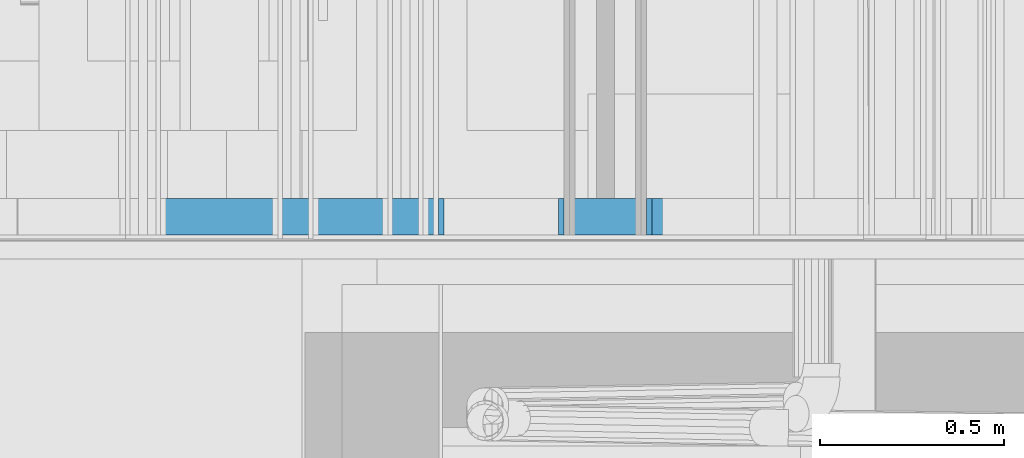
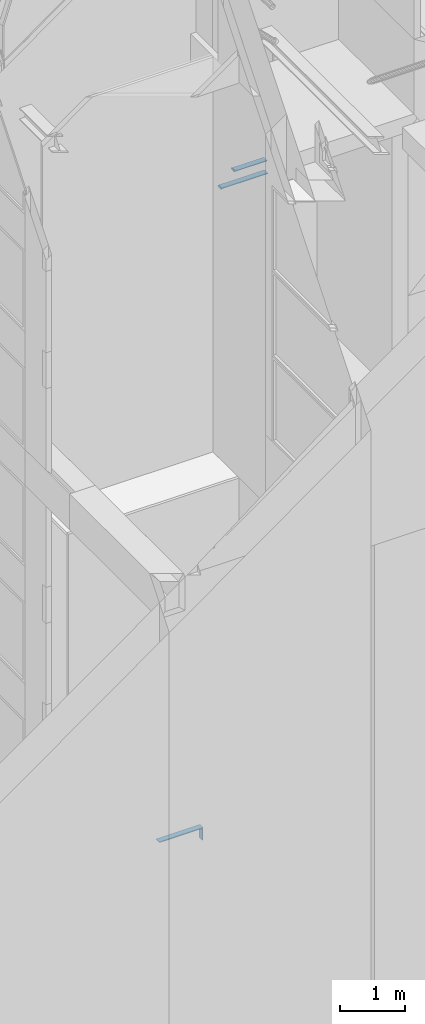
# One storey, part 176 of 583: 6 building element parts, 4 elements without a shape of their own.
"""IFC2X3 building model written with IfcOpenShell, lengths in metres."""

from ifc_helpers import new_model, entity, si_unit, converted_unit, derived_unit, money_unit, direction, frame, frame_2d, origin_with_axes, place, context, subcontext, project, spatial, polyline, rectangle, outline, extrude, material, type_object, element, aggregate, save


model = new_model("IFC2X3")

# Units and contexts
model_context = context("Model", 3, precision=1e-05, world=origin_with_axes(), true_north=direction((0.0, 1.0)))
body_context = subcontext(model_context, "Body", "Model", "MODEL_VIEW", scale=1.0)
ifc_project = project(units=[si_unit("LENGTHUNIT", "METRE"), si_unit("AREAUNIT", "SQUARE_METRE"), si_unit("VOLUMEUNIT", "CUBIC_METRE"), si_unit("ABSORBEDDOSEUNIT", "GRAY"), si_unit("AMOUNTOFSUBSTANCEUNIT", "MOLE"), si_unit("DOSEEQUIVALENTUNIT", "SIEVERT"), si_unit("ELECTRICCAPACITANCEUNIT", "FARAD"), si_unit("ELECTRICCHARGEUNIT", "COULOMB"), si_unit("ELECTRICCONDUCTANCEUNIT", "SIEMENS"), si_unit("ELECTRICCURRENTUNIT", "AMPERE"), si_unit("ELECTRICRESISTANCEUNIT", "OHM"), si_unit("ELECTRICVOLTAGEUNIT", "VOLT"), si_unit("ENERGYUNIT", "JOULE"), si_unit("FORCEUNIT", "NEWTON"), si_unit("FREQUENCYUNIT", "HERTZ"), si_unit("ILLUMINANCEUNIT", "LUX"), si_unit("INDUCTANCEUNIT", "HENRY"), si_unit("LUMINOUSFLUXUNIT", "LUMEN"), si_unit("LUMINOUSINTENSITYUNIT", "CANDELA"), si_unit("MAGNETICFLUXDENSITYUNIT", "TESLA"), si_unit("MAGNETICFLUXUNIT", "WEBER"), si_unit("MASSUNIT", "GRAM"), converted_unit("PLANEANGLEUNIT", "degree", entity("IfcReal", 0.0174532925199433), si_unit("PLANEANGLEUNIT", "RADIAN"), dimensions=[0, 0, 0, 0, 0, 0, 0]), si_unit("POWERUNIT", "WATT"), si_unit("PRESSUREUNIT", "PASCAL"), si_unit("RADIOACTIVITYUNIT", "BECQUEREL"), si_unit("SOLIDANGLEUNIT", "STERADIAN"), si_unit("THERMODYNAMICTEMPERATUREUNIT", "KELVIN"), si_unit("TIMEUNIT", "SECOND"), derived_unit("ACCELERATIONUNIT", [(si_unit("LENGTHUNIT", "METRE"), 1), (si_unit("TIMEUNIT", "SECOND"), -2)]), derived_unit("ANGULARVELOCITYUNIT", [(converted_unit("PLANEANGLEUNIT", "degree", entity("IfcReal", 0.0174532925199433), si_unit("PLANEANGLEUNIT", "RADIAN"), dimensions=[0, 0, 0, 0, 0, 0, 0]), 1), (si_unit("TIMEUNIT", "SECOND"), -1)]), derived_unit("CURVATUREUNIT", [(converted_unit("PLANEANGLEUNIT", "degree", entity("IfcReal", 0.0174532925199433), si_unit("PLANEANGLEUNIT", "RADIAN"), dimensions=[0, 0, 0, 0, 0, 0, 0]), 1), (si_unit("LENGTHUNIT", "METRE"), -1)]), derived_unit("DYNAMICVISCOSITYUNIT", [(si_unit("PRESSUREUNIT", "PASCAL"), 1), (si_unit("TIMEUNIT", "SECOND"), 1)]), derived_unit("HEATFLUXDENSITYUNIT", [(si_unit("POWERUNIT", "WATT"), 1), (si_unit("LENGTHUNIT", "METRE"), -2)]), derived_unit("HEATINGVALUEUNIT", [(si_unit("ENERGYUNIT", "JOULE"), 1), (si_unit("MASSUNIT", "GRAM"), -1)]), derived_unit("INTEGERCOUNTRATEUNIT", [(si_unit("TIMEUNIT", "SECOND"), -1)]), derived_unit("IONCONCENTRATIONUNIT", [(si_unit("MASSUNIT", "GRAM"), 1), (si_unit("VOLUMEUNIT", "CUBIC_METRE"), -1)]), derived_unit("ISOTHERMALMOISTURECAPACITYUNIT", [(si_unit("VOLUMEUNIT", "CUBIC_METRE"), 1), (si_unit("MASSUNIT", "GRAM"), -1)]), derived_unit("KINEMATICVISCOSITYUNIT", [(si_unit("AREAUNIT", "SQUARE_METRE"), 1), (si_unit("TIMEUNIT", "SECOND"), -1)]), derived_unit("LINEARFORCEUNIT", [(si_unit("FORCEUNIT", "NEWTON"), 1), (si_unit("LENGTHUNIT", "METRE"), -1)]), derived_unit("LINEARMOMENTUNIT", [(si_unit("FORCEUNIT", "NEWTON"), 1), (si_unit("LENGTHUNIT", "METRE"), -1)]), derived_unit("LINEARSTIFFNESSUNIT", [(si_unit("FORCEUNIT", "NEWTON"), 1), (si_unit("LENGTHUNIT", "METRE"), -1)]), derived_unit("LINEARVELOCITYUNIT", [(si_unit("LENGTHUNIT", "METRE"), 1), (si_unit("TIMEUNIT", "SECOND"), -1)]), derived_unit("LUMINOUSINTENSITYDISTRIBUTIONUNIT", [(si_unit("LUMINOUSINTENSITYUNIT", "CANDELA"), 1), (si_unit("LUMINOUSFLUXUNIT", "LUMEN"), -1)]), derived_unit("MASSDENSITYUNIT", [(si_unit("MASSUNIT", "GRAM"), 1), (si_unit("VOLUMEUNIT", "CUBIC_METRE"), -1)]), derived_unit("MASSFLOWRATEUNIT", [(si_unit("MASSUNIT", "GRAM"), 1), (si_unit("TIMEUNIT", "SECOND"), -1)]), derived_unit("MASSPERLENGTHUNIT", [(si_unit("MASSUNIT", "GRAM"), 1), (si_unit("LENGTHUNIT", "METRE"), -1)]), derived_unit("MODULUSOFELASTICITYUNIT", [(si_unit("FORCEUNIT", "NEWTON"), 1), (si_unit("AREAUNIT", "SQUARE_METRE"), -1)]), derived_unit("MODULUSOFLINEARSUBGRADEREACTIONUNIT", [(si_unit("FORCEUNIT", "NEWTON"), 1), (si_unit("LENGTHUNIT", "METRE"), -2)]), derived_unit("MODULUSOFROTATIONALSUBGRADEREACTIONUNIT", [(si_unit("FORCEUNIT", "NEWTON"), 1), (si_unit("LENGTHUNIT", "METRE"), 1)]), derived_unit("MODULUSOFSUBGRADEREACTIONUNIT", [(si_unit("FORCEUNIT", "NEWTON"), 1), (si_unit("VOLUMEUNIT", "CUBIC_METRE"), -1)]), derived_unit("MOISTUREDIFFUSIVITYUNIT", [(si_unit("VOLUMEUNIT", "CUBIC_METRE"), 1), (si_unit("TIMEUNIT", "SECOND"), -1)]), derived_unit("MOLECULARWEIGHTUNIT", [(si_unit("MASSUNIT", "GRAM"), 1), (si_unit("AMOUNTOFSUBSTANCEUNIT", "MOLE"), -1)]), derived_unit("PLANARFORCEUNIT", [(si_unit("FORCEUNIT", "NEWTON"), 1), (si_unit("LENGTHUNIT", "METRE"), -2)]), derived_unit("ROTATIONALFREQUENCYUNIT", [(si_unit("TIMEUNIT", "SECOND"), -1)]), derived_unit("ROTATIONALMASSUNIT", [(si_unit("MASSUNIT", "GRAM"), 1), (si_unit("LENGTHUNIT", "METRE"), 2)]), derived_unit("ROTATIONALSTIFFNESSUNIT", [(si_unit("FORCEUNIT", "NEWTON"), 1), (si_unit("LENGTHUNIT", "METRE"), 1), (converted_unit("PLANEANGLEUNIT", "degree", entity("IfcReal", 0.0174532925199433), si_unit("PLANEANGLEUNIT", "RADIAN"), dimensions=[0, 0, 0, 0, 0, 0, 0]), -1)]), derived_unit("SECTIONAREAINTEGRALUNIT", [(si_unit("LENGTHUNIT", "METRE"), 5)]), derived_unit("SECTIONMODULUSUNIT", [(si_unit("LENGTHUNIT", "METRE"), 3)]), derived_unit("SHEARMODULUSUNIT", [(si_unit("FORCEUNIT", "NEWTON"), 1), (si_unit("AREAUNIT", "SQUARE_METRE"), -1)]), derived_unit("SOUNDPOWERUNIT", [(si_unit("ENERGYUNIT", "JOULE"), 1), (si_unit("TIMEUNIT", "SECOND"), -1)]), derived_unit("SPECIFICHEATCAPACITYUNIT", [(si_unit("FORCEUNIT", "NEWTON"), 1), (si_unit("MASSUNIT", "GRAM"), -1), (si_unit("THERMODYNAMICTEMPERATUREUNIT", "KELVIN"), -1)]), derived_unit("TEMPERATUREGRADIENTUNIT", [(si_unit("THERMODYNAMICTEMPERATUREUNIT", "KELVIN"), 1), (si_unit("LENGTHUNIT", "METRE"), -1)]), derived_unit("THERMALADMITTANCEUNIT", [(si_unit("POWERUNIT", "WATT"), 1), (si_unit("AREAUNIT", "SQUARE_METRE"), -1), (si_unit("THERMODYNAMICTEMPERATUREUNIT", "KELVIN"), -1)]), derived_unit("THERMALCONDUCTANCEUNIT", [(si_unit("POWERUNIT", "WATT"), 1), (si_unit("LENGTHUNIT", "METRE"), -1), (si_unit("THERMODYNAMICTEMPERATUREUNIT", "KELVIN"), -1)]), derived_unit("THERMALEXPANSIONCOEFFICIENTUNIT", [(si_unit("THERMODYNAMICTEMPERATUREUNIT", "KELVIN"), -1)]), derived_unit("THERMALRESISTANCEUNIT", [(si_unit("AREAUNIT", "SQUARE_METRE"), 1), (si_unit("POWERUNIT", "WATT"), -1)]), derived_unit("THERMALTRANSMITTANCEUNIT", [(si_unit("POWERUNIT", "WATT"), 1), (si_unit("AREAUNIT", "SQUARE_METRE"), -1), (si_unit("THERMODYNAMICTEMPERATUREUNIT", "KELVIN"), -1)]), derived_unit("TORQUEUNIT", [(si_unit("FORCEUNIT", "NEWTON"), 1), (si_unit("LENGTHUNIT", "METRE"), 1)]), derived_unit("VAPORPERMEABILITYUNIT", [(si_unit("MASSUNIT", "GRAM"), 1), (si_unit("TIMEUNIT", "SECOND"), -1)]), derived_unit("VOLUMETRICFLOWRATEUNIT", [(si_unit("VOLUMEUNIT", "CUBIC_METRE"), 1), (si_unit("TIMEUNIT", "SECOND"), -1)]), derived_unit("WARPINGCONSTANTUNIT", [(si_unit("LENGTHUNIT", "METRE"), 6)]), derived_unit("WARPINGMOMENTUNIT", [(si_unit("FORCEUNIT", "NEWTON"), 1), (si_unit("LENGTHUNIT", "METRE"), 2)]), money_unit("GBP")], contexts=[model_context])

# Site, building, storey
site_placement = place(None, origin_with_axes())
site = spatial("IfcSite", under=ifc_project, at=site_placement, Name="Site", CompositionType="ELEMENT")
building_placement = place(site_placement, origin_with_axes())
building = spatial("IfcBuilding", under=site, at=building_placement, Name="Building01", CompositionType="ELEMENT")
storey_placement = place(building_placement, frame((0.0, 0.0, 20.78), z_axis=(0.0, 0.0, 1.0), x_axis=(1.0, 0.0, 0.0)))
storey = spatial("IfcBuildingStorey", under=building, at=storey_placement, Name="RL", CompositionType="ELEMENT", Elevation=20.78)

# Wall, building element part
wall_type_1 = type_object("IfcWallType", Name="SHE_A-Walls_Type01c_Partywall_225mm_twin_tall", PredefinedType="NOTDEFINED")
wall_1_placement = place(storey_placement, frame((4.302428, 5.15, -8.492), z_axis=(0.0, 1.0, 0.0), x_axis=(0.0, 0.0, 1.0)))
wall_1 = element("IfcWall", 1, at=wall_1_placement, inside=storey, type_object=wall_type_1, Name="1C", ObjectType="SHE_A-Walls_Type01c_Partywall_225mm_twin_tall")
ifc_material = material(Name="A_BSUK_Walls_Timber")
building_element_part_1_placement = place(wall_1_placement, origin_with_axes())
building_element_part_1 = element("IfcBuildingElementPart", 2, at=building_element_part_1_placement, material=ifc_material, Name="2", context=body_context, shape_type="SweptSolid", body=[
    extrude(outline(polyline([(0.102, 0.102), (0.087, 0.087), (0.102549, 0.087), (0.102549, 0.102), (0.102, 0.102)])), frame((0.0, 0.0, 0.015), z_axis=(0.0, 0.0, 1.0), x_axis=(1.0, 0.0, 0.0)), (0.0, 0.0, 1.0), 0.1),
])
aggregate(wall_1, [building_element_part_1])

# Wall, building element parts
wall_2_placement = place(storey_placement, frame((4.98, 5.15, -8.492), z_axis=(0.0, 1.0, 0.0), x_axis=(-1.0, 0.0, 0.0)))
wall_2 = element("IfcWall", 3, at=wall_2_placement, inside=storey, type_object=wall_type_1, Name="1C", ObjectType="SHE_A-Walls_Type01c_Partywall_225mm_twin_tall")
placement = place(wall_2_placement, origin_with_axes())
building_element_part_2 = element("IfcBuildingElementPart", 4, at=placement, material=ifc_material, Name="2", context=body_context, shape_type="SweptSolid", body=[
    extrude(outline(polyline([(0.575572, 0.102), (0.015, 0.102), (0.0, 0.087), (0.590572, 0.087), (0.575572, 0.102)])), frame((0.0, 0.0, 0.015), z_axis=(0.0, 0.0, 1.0), x_axis=(1.0, 0.0, 0.0)), (0.0, 0.0, 1.0), 0.1),
])
building_element_part_3 = element("IfcBuildingElementPart", 5, at=placement, material=ifc_material, Name="7", context=body_context, shape_type="SweptSolid", body=[
    extrude(rectangle(XDim=0.815572, YDim=0.015, at=frame_2d((0.407786, -0.1455), x_axis=(-1.0, 0.0))), frame((0.0, 0.0, 0.015), z_axis=(0.0, 0.0, 1.0), x_axis=(1.0, 0.0, 0.0)), (0.0, 0.0, 1.0), 0.1),
])
building_element_part_4 = element("IfcBuildingElementPart", 6, at=placement, material=ifc_material, Name="8", context=body_context, shape_type="SweptSolid", body=[
    extrude(outline(polyline([(0.815572, -0.138), (0.815557, -0.138), (0.815557, -0.153), (0.830572, -0.153), (0.815572, -0.138)])), frame((0.0, 0.0, 0.015), z_axis=(0.0, 0.0, 1.0), x_axis=(1.0, 0.0, 0.0)), (0.0, 0.0, 1.0), 0.1),
])
aggregate(wall_2, [building_element_part_2, building_element_part_3, building_element_part_4])

# Wall, building element part
wall_type_2 = type_object("IfcWallType", Name="SHE_A-Walls_Type06d_ExternalWallInsulation_48mm", PredefinedType="NOTDEFINED")
wall_3_placement = place(storey_placement, frame((3.77418, 5.15, -20.51), z_axis=(0.0, 1.0, 0.0), x_axis=(0.0, 0.0, -1.0)))
wall_3 = element("IfcWall", 7, at=wall_3_placement, inside=storey, type_object=wall_type_2, Name="6D", ObjectType="SHE_A-Walls_Type06d_ExternalWallInsulation_48mm")
building_element_part_5_placement = place(wall_3_placement, origin_with_axes())
building_element_part_5 = element("IfcBuildingElementPart", 8, at=building_element_part_5_placement, material=ifc_material, Name="2", context=body_context, shape_type="SweptSolid", body=[
    extrude(rectangle(XDim=0.015, YDim=0.218, at=frame_2d((0.061, -0.0555), x_axis=(0.0, -1.0))), frame((0.0, 0.0, 0.015), z_axis=(0.0, 0.0, 1.0), x_axis=(1.0, 0.0, 0.0)), (0.0, 0.0, 1.0), 0.1),
])
aggregate(wall_3, [building_element_part_5])

wall_4_placement = place(storey_placement, frame((3.81018, 5.15, -20.51), z_axis=(0.0, 1.0, 0.0), x_axis=(-1.0, 0.0, 0.0)))
wall_4 = element("IfcWall", 9, at=wall_4_placement, inside=storey, type_object=wall_type_2, Name="6D", ObjectType="SHE_A-Walls_Type06d_ExternalWallInsulation_48mm")
building_element_part_6_placement = place(wall_4_placement, origin_with_axes())
building_element_part_6 = element("IfcBuildingElementPart", 10, at=building_element_part_6_placement, material=ifc_material, Name="2", context=body_context, shape_type="SweptSolid", body=[
    extrude(rectangle(XDim=0.771894, YDim=0.015, at=frame_2d((0.358947, 0.0555), x_axis=(-1.0, 0.0))), frame((0.0, 0.0, 0.015), z_axis=(0.0, 0.0, 1.0), x_axis=(1.0, 0.0, 0.0)), (0.0, 0.0, 1.0), 0.1),
])
aggregate(wall_4, [building_element_part_6])

save(model, "model.ifc")
